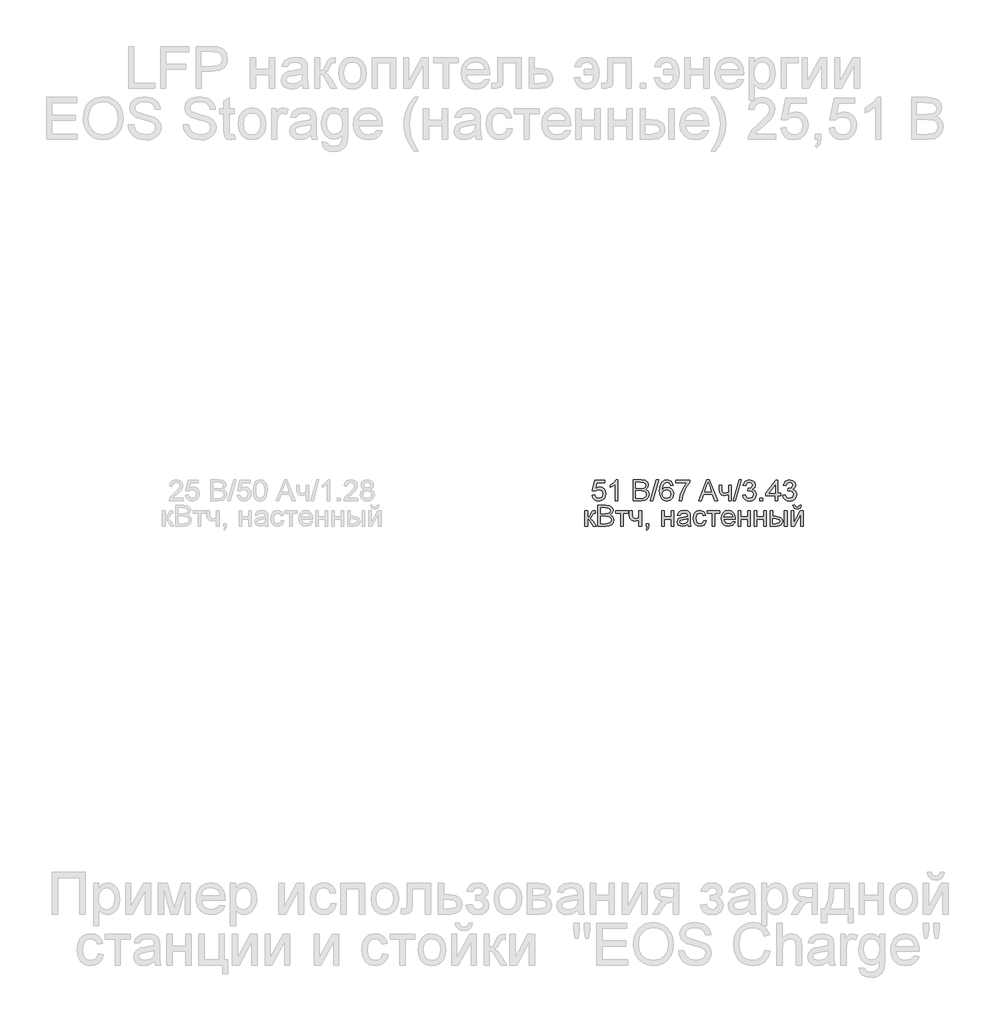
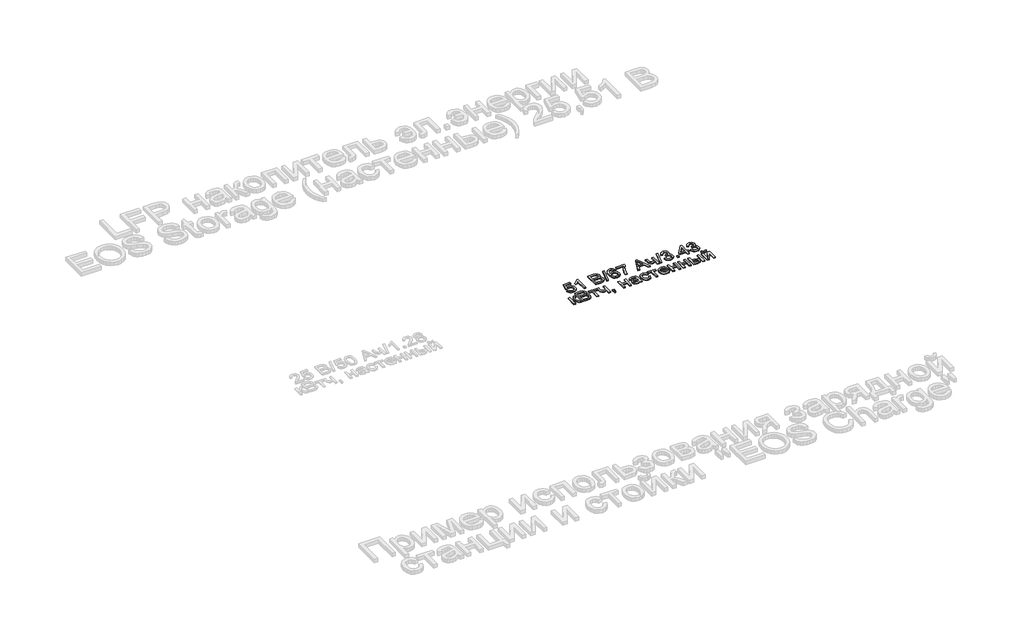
# One storey, part 16 of 26: 1 proxy.
"""IFC4 building model written with IfcOpenShell, lengths in millimetres."""

from ifc_helpers import new_model, si_unit, origin, origin_with_axes, place, context, project, spatial, polyline, outline, extrude, element, save

model = new_model("IFC4")

# Units and contexts
model_context = context("Model", 3, world=origin())
ifc_project = project(units=[si_unit("LENGTHUNIT", "METRE", prefix="MILLI")], contexts=[model_context])

# Site, building, storey
site = spatial("IfcSite", under=ifc_project)
building = spatial("IfcBuilding", under=site)
storey = spatial("IfcBuildingStorey", under=building, Name="Этаж 01", Elevation=0.0)

# Proxy
placement = place(None, origin())
element("IfcBuildingElementProxy", 1, Name="75 мм Arial", ObjectType="75 мм Arial", at=placement, inside=storey, context=model_context, shape_type="SweptSolid", body=[
    extrude(outline(polyline([(15914.924025, -18334.6892694), (15924.341804, -18333.512047), (15929.0874818, -18343.2149346), (15938.9283252, -18346.4614932), (15950.7373372, -18341.9457417), (15954.949586, -18329.9619857), (15951.0040516, -18318.7783731), (15939.075478, -18314.6764888), (15930.8073301, -18316.3135637), (15925.5190264, -18320.5626007), (15916.1012474, -18319.3853784), (15924.341804, -18280.5370397), (15960.835698, -18280.5370397), (15960.835698, -18289.9548187), (15931.9569613, -18289.9548187), (15927.9286535, -18310.7033633), (15941.7058342, -18305.2587097), (15950.5051117, -18306.9463684), (15957.8098686, -18312.0093444), (15962.727991, -18319.7256692), (15964.3673651, -18329.3733745), (15962.8912386, -18338.7911536), (15958.4628591, -18346.8477693), (15949.9831791, -18353.6213965), (15938.891537, -18355.8792723), (15929.641604, -18354.4284377), (15922.2724678, -18350.0759338), (15917.2209882, -18343.3275985), (15914.924025, -18334.6892694)])), origin_with_axes(), (0.0, 0.0, 1.0), 5.0),
    extrude(outline(polyline([(16007.9245934, -18354.7020499), (15998.5068143, -18354.7020499), (15998.5068143, -18295.9880835), (15989.5856759, -18302.3432449), (15979.6712561, -18307.0981197), (15979.6712561, -18298.1953754), (15993.476028, -18289.3846017), (16001.8545404, -18279.3598173), (16007.9245934, -18279.3598173), (16007.9245934, -18354.7020499)])), origin_with_axes(), (0.0, 0.0, 1.0), 5.0),
    extrude(outline(polyline([(16063.2540454, -18354.7020499), (16063.2540454, -18279.3598173), (16092.0040233, -18279.3598173), (16106.0847067, -18281.5763063), (16114.3988398, -18288.3913203), (16117.4062751, -18298.0298285), (16114.8770864, -18306.8314053), (16107.2343379, -18313.4992664), (16116.5141613, -18320.5258125), (16119.7607199, -18332.2428541), (16117.5442309, -18342.368806), (16112.0535921, -18349.5792931), (16103.8590206, -18353.4052659), (16091.7832942, -18354.7020499), (16063.2540454, -18354.7020499)]), holes=[polyline([(16072.6718245, -18309.9675993), (16089.8703078, -18309.9675993), (16099.9134862, -18309.1582589), (16105.955948, -18305.672577), (16107.988496, -18299.5381447), (16106.0939038, -18293.3945154), (16100.6676443, -18289.7616807), (16088.5643267, -18288.7775964), (16072.6718245, -18288.7775964), (16072.6718245, -18309.9675993)]), polyline([(16072.6718245, -18345.2842708), (16091.9856292, -18345.2842708), (16098.9753872, -18344.9163888), (16104.8890902, -18342.8654467), (16108.8070335, -18338.680789), (16110.3429408, -18332.3348246), (16108.540319, -18325.0139729), (16102.7001924, -18320.6453742), (16091.0659243, -18319.3853784), (16072.6718245, -18319.3853784), (16072.6718245, -18345.2842708)])]), origin_with_axes(), (0.0, 0.0, 1.0), 5.0),
    extrude(outline(polyline([(16124.4696094, -18354.7020499), (16145.6596123, -18279.3598173), (16154.1576864, -18279.3598173), (16132.9676835, -18354.7020499), (16124.4696094, -18354.7020499)])), origin_with_axes(), (0.0, 0.0, 1.0), 5.0),
    extrude(outline(polyline([(16206.8751763, -18299.3725978), (16197.4573973, -18300.5498202), (16193.8889419, -18292.6955396), (16184.4527687, -18288.7775964), (16175.9546946, -18291.0584647), (16169.5259568, -18299.6209182), (16166.8496153, -18316.4055342), (16175.1545513, -18308.8915444), (16185.4460501, -18306.4359321), (16194.1464593, -18308.1143937), (16201.4489169, -18313.1497785), (16206.4015283, -18320.8431108), (16208.0523987, -18330.4954146), (16204.9437959, -18343.4908461), (16196.3905395, -18352.687896), (16184.0480985, -18355.8792723), (16173.3634258, -18353.7639508), (16164.8538554, -18347.4179864), (16159.287341, -18336.2159796), (16157.4318362, -18319.5325312), (16159.4919754, -18300.7751479), (16165.6723929, -18287.9498619), (16174.1106861, -18281.5073284), (16185.0413799, -18279.3598173), (16199.9222066, -18284.6757121), (16206.8751763, -18299.3725978)]), holes=[polyline([(16166.8496153, -18330.3482618), (16169.0293161, -18338.5060451), (16174.8234575, -18344.4289452), (16183.3123346, -18346.4614932), (16194.4131738, -18342.2492444), (16198.6346196, -18330.8081143), (16194.4683561, -18319.8544279), (16182.9260585, -18315.8537112), (16171.5309137, -18319.8544279), (16166.8496153, -18330.3482618)])]), origin_with_axes(), (0.0, 0.0, 1.0), 5.0),
    extrude(outline(polyline([(16216.2929554, -18289.9548187), (16216.2929554, -18280.5370397), (16265.7362956, -18280.5370397), (16265.7362956, -18288.152197), (16251.7107945, -18308.4132979), (16240.9778373, -18334.2294169), (16237.4829583, -18354.7020499), (16228.0651793, -18354.7020499), (16231.8083786, -18333.4568647), (16242.0814833, -18309.4433674), (16256.3185165, -18289.9548187), (16216.2929554, -18289.9548187)])), origin_with_axes(), (0.0, 0.0, 1.0), 5.0),
    extrude(outline(polyline([(16298.1650934, -18354.7020499), (16328.2394466, -18279.3598173), (16336.259274, -18279.3598173), (16366.3336272, -18354.7020499), (16356.3824192, -18354.7020499), (16347.7555864, -18331.1576022), (16316.7247401, -18331.1576022), (16308.1163014, -18354.7020499), (16298.1650934, -18354.7020499)]), holes=[polyline([(16320.1828309, -18321.7398231), (16344.3158897, -18321.7398231), (16337.5284669, -18303.2169647), (16332.2493603, -18288.7775964), (16327.5588649, -18301.5982839), (16320.1828309, -18321.7398231)])]), origin_with_axes(), (0.0, 0.0, 1.0), 5.0),
    extrude(outline(polyline([(16371.6863102, -18299.3725978), (16381.1040893, -18299.3725978), (16381.1040893, -18309.9859934), (16381.8674444, -18319.9372014), (16385.5370673, -18325.3266726), (16392.8211308, -18327.6259351), (16405.8257593, -18324.7748496), (16405.8257593, -18299.3725978), (16415.2435384, -18299.3725978), (16415.2435384, -18354.7020499), (16405.8257593, -18354.7020499), (16405.8257593, -18333.8063526), (16390.3011391, -18337.0437141), (16379.6233642, -18333.6683968), (16373.3417792, -18325.400249), (16371.6863102, -18314.6397006), (16371.6863102, -18299.3725978)])), origin_with_axes(), (0.0, 0.0, 1.0), 5.0),
    extrude(outline(polyline([(16422.3068727, -18354.7020499), (16443.4968756, -18279.3598173), (16451.9949497, -18279.3598173), (16430.8049468, -18354.7020499), (16422.3068727, -18354.7020499)])), origin_with_axes(), (0.0, 0.0, 1.0), 5.0),
    extrude(outline(polyline([(16456.4463219, -18334.6892694), (16465.8641009, -18333.512047), (16471.0604341, -18343.4264667), (16480.7817159, -18346.4614932), (16492.2228459, -18342.2860326), (16496.4718829, -18331.9485485), (16492.2596341, -18322.2088727), (16481.554268, -18318.3553088), (16474.9507862, -18319.3853784), (16475.9992499, -18309.9675993), (16488.1945381, -18307.3740312), (16492.9402158, -18299.0598981), (16489.5005191, -18291.6930612), (16480.6345631, -18288.7775964), (16471.6582424, -18291.7206523), (16467.0413233, -18300.5498202), (16457.6235443, -18299.3725978), (16465.3306721, -18284.6021357), (16480.3034693, -18279.3598173), (16491.6618259, -18281.9441883), (16499.608077, -18289.0075226), (16502.3579949, -18298.5080751), (16499.7460327, -18307.1900902), (16492.0205108, -18313.42569), (16502.2844185, -18319.863625), (16505.889662, -18332.1140954), (16504.0870402, -18341.2927512), (16498.6791749, -18348.9630908), (16490.5167931, -18354.1502269), (16480.4506221, -18355.8792723), (16471.3455427, -18354.4031458), (16463.9327205, -18349.9747663), (16458.777774, -18343.201139), (16456.4463219, -18334.6892694)])), origin_with_axes(), (0.0, 0.0, 1.0), 5.0),
    extrude(outline(polyline([(16518.8391083, -18354.7020499), (16518.8391083, -18345.2842708), (16528.2568873, -18345.2842708), (16528.2568873, -18354.7020499), (16518.8391083, -18354.7020499)])), origin_with_axes(), (0.0, 0.0, 1.0), 5.0),
    extrude(outline(polyline([(16574.1685603, -18354.7020499), (16574.1685603, -18337.0437141), (16540.0291112, -18337.0437141), (16540.0291112, -18327.6259351), (16576.5230051, -18280.5370397), (16583.5863394, -18280.5370397), (16583.5863394, -18327.6259351), (16593.0041185, -18327.6259351), (16593.0041185, -18337.0437141), (16583.5863394, -18337.0437141), (16583.5863394, -18354.7020499), (16574.1685603, -18354.7020499)]), holes=[polyline([(16574.1685603, -18327.6259351), (16574.1685603, -18298.5264692), (16551.617394, -18327.6259351), (16574.1685603, -18327.6259351)])]), origin_with_axes(), (0.0, 0.0, 1.0), 5.0),
    extrude(outline(polyline([(16601.2446752, -18334.6892694), (16610.6624542, -18333.512047), (16615.8587874, -18343.4264667), (16625.5800692, -18346.4614932), (16637.0211992, -18342.2860326), (16641.2702362, -18331.9485485), (16637.0579874, -18322.2088727), (16626.3526213, -18318.3553088), (16619.7491395, -18319.3853784), (16620.7976032, -18309.9675993), (16632.9928914, -18307.3740312), (16637.7385691, -18299.0598981), (16634.2988724, -18291.6930612), (16625.4329164, -18288.7775964), (16616.4565957, -18291.7206523), (16611.8396766, -18300.5498202), (16602.4218976, -18299.3725978), (16610.1290254, -18284.6021357), (16625.1018226, -18279.3598173), (16636.4601792, -18281.9441883), (16644.4064303, -18289.0075226), (16647.1563482, -18298.5080751), (16644.544386, -18307.1900902), (16636.8188641, -18313.42569), (16647.0827718, -18319.863625), (16650.6880153, -18332.1140954), (16648.8853935, -18341.2927512), (16643.4775282, -18348.9630908), (16635.3151464, -18354.1502269), (16625.2489754, -18355.8792723), (16616.143896, -18354.4031458), (16608.7310738, -18349.9747663), (16603.5761273, -18343.201139), (16601.2446752, -18334.6892694)])), origin_with_axes(), (0.0, 0.0, 1.0), 5.0),
    extrude(outline(polyline([(15889.0251325, -18390.8537112), (15898.4429116, -18390.8537112), (15898.4429116, -18414.3981589), (15904.7520878, -18412.7059017), (15909.9208298, -18402.8466642), (15914.2158521, -18394.3393931), (15918.0050367, -18391.5710811), (15924.893627, -18390.8537112), (15926.6962488, -18390.8537112), (15926.6962488, -18400.3266726), (15924.157863, -18400.2714903), (15919.5593381, -18401.2647717), (15916.3219766, -18407.4635833), (15912.523595, -18414.1682327), (15907.1985031, -18417.4515795), (15918.9707269, -18428.8375272), (15929.0506936, -18446.1831633), (15918.3453275, -18446.1831633), (15908.467696, -18429.2054092), (15903.501289, -18422.0225132), (15898.4429116, -18420.2842708), (15898.4429116, -18446.1831633), (15889.0251325, -18446.1831633), (15889.0251325, -18390.8537112)])), origin_with_axes(), (0.0, 0.0, 1.0), 5.0),
    extrude(outline(polyline([(15936.1140279, -18446.1831633), (15936.1140279, -18370.8409307), (15964.8640058, -18370.8409307), (15978.9446892, -18373.0574197), (15987.2588223, -18379.8724337), (15990.2662576, -18389.5109419), (15987.7370689, -18398.3125187), (15980.0943204, -18404.9803798), (15989.3741437, -18412.0069259), (15992.6207024, -18423.7239675), (15990.4042133, -18433.8499194), (15984.9135746, -18441.0604065), (15976.7190031, -18444.8863792), (15964.6432766, -18446.1831633), (15936.1140279, -18446.1831633)]), holes=[polyline([(15945.531807, -18401.4487127), (15962.7302902, -18401.4487127), (15972.7734687, -18400.6393723), (15978.8159305, -18397.1536904), (15980.8484785, -18391.0192581), (15978.9538862, -18384.8756288), (15973.5276268, -18381.2427941), (15961.4243092, -18380.2587097), (15945.531807, -18380.2587097), (15945.531807, -18401.4487127)]), polyline([(15945.531807, -18436.7653842), (15964.8456117, -18436.7653842), (15971.8353696, -18436.3975022), (15977.7490727, -18434.3465601), (15981.6670159, -18430.1619024), (15983.2029233, -18423.815938), (15981.4003015, -18416.4950863), (15975.5601748, -18412.1264876), (15963.9259067, -18410.8664917), (15945.531807, -18410.8664917), (15945.531807, -18436.7653842)])]), origin_with_axes(), (0.0, 0.0, 1.0), 5.0),
    extrude(outline(polyline([(15999.6840367, -18390.8537112), (16044.4184873, -18390.8537112), (16044.4184873, -18400.2714903), (16026.7601515, -18400.2714903), (16026.7601515, -18446.1831633), (16017.3423724, -18446.1831633), (16017.3423724, -18400.2714903), (15999.6840367, -18400.2714903), (15999.6840367, -18390.8537112)])), origin_with_axes(), (0.0, 0.0, 1.0), 5.0),
    extrude(outline(polyline([(16049.1273768, -18390.8537112), (16058.5451559, -18390.8537112), (16058.5451559, -18401.4671068), (16059.308511, -18411.4183147), (16062.9781339, -18416.807786), (16070.2621974, -18419.1070484), (16083.266826, -18416.255963), (16083.266826, -18390.8537112), (16092.684605, -18390.8537112), (16092.684605, -18446.1831633), (16083.266826, -18446.1831633), (16083.266826, -18425.287466), (16067.7422058, -18428.5248275), (16057.0644309, -18425.1495102), (16050.7828458, -18416.8813624), (16049.1273768, -18406.120814), (16049.1273768, -18390.8537112)])), origin_with_axes(), (0.0, 0.0, 1.0), 5.0),
    extrude(outline(polyline([(16109.1657184, -18446.1831633), (16109.1657184, -18436.7653842), (16118.5834975, -18436.7653842), (16118.5834975, -18446.1831633), (16116.8912403, -18455.8124745), (16111.5201632, -18461.4870543), (16109.1657184, -18457.9553871), (16112.6238092, -18453.8902911), (16113.8562139, -18446.1831633), (16109.1657184, -18446.1831633)])), origin_with_axes(), (0.0, 0.0, 1.0), 5.0),
    extrude(outline(polyline([(16165.6723929, -18390.8537112), (16175.090172, -18390.8537112), (16175.090172, -18412.0437141), (16199.811842, -18412.0437141), (16199.811842, -18390.8537112), (16209.2296211, -18390.8537112), (16209.2296211, -18446.1831633), (16199.811842, -18446.1831633), (16199.811842, -18421.4614932), (16175.090172, -18421.4614932), (16175.090172, -18446.1831633), (16165.6723929, -18446.1831633), (16165.6723929, -18390.8537112)])), origin_with_axes(), (0.0, 0.0, 1.0), 5.0),
    extrude(outline(polyline([(16258.6729613, -18439.119829), (16249.5402907, -18445.5025816), (16239.451127, -18447.3603857), (16225.7751138, -18442.8906194), (16221.001845, -18431.4678835), (16222.8044667, -18424.0182731), (16227.5409474, -18418.6104077), (16234.1352322, -18415.520199), (16242.2838184, -18414.1038533), (16258.617779, -18410.8664917), (16258.6729613, -18408.7695644), (16256.0793932, -18401.8165947), (16245.6683327, -18399.0942679), (16236.1401891, -18400.9060867), (16231.5968464, -18407.3348246), (16222.1790673, -18406.1576022), (16226.2533604, -18396.9605523), (16234.4571289, -18391.5710811), (16246.8823433, -18389.6764888), (16258.2958822, -18391.3503519), (16264.7430142, -18395.5534037), (16267.6308878, -18401.9453534), (16268.0907403, -18410.1859101), (16268.0907403, -18421.9029516), (16268.5689869, -18438.2645033), (16270.4451851, -18446.1831633), (16261.027406, -18446.1831633), (16258.6729613, -18439.119829)]), holes=[polyline([(16258.6729613, -18420.2842708), (16243.4794349, -18423.1721445), (16235.3768339, -18424.6988548), (16231.707211, -18427.1820582), (16230.419624, -18430.8056959), (16233.2247242, -18435.9008615), (16241.4560839, -18437.9426066), (16250.9842276, -18435.6893294), (16257.1278569, -18430.2354788), (16258.617779, -18422.9514153), (16258.6729613, -18420.2842708)])]), origin_with_axes(), (0.0, 0.0, 1.0), 5.0),
    extrude(outline(polyline([(16316.3568581, -18426.1703827), (16325.7746372, -18427.3476051), (16318.2146622, -18442.0536879), (16303.2786532, -18447.3603857), (16293.2607666, -18445.5094794), (16285.4271794, -18439.9567605), (16280.3711012, -18430.9459509), (16278.6857418, -18418.7207723), (16281.5644184, -18403.0765905), (16290.338404, -18393.024215), (16303.1498945, -18389.6764888), (16317.4697011, -18394.2750138), (16324.5974148, -18407.3348246), (16315.1796357, -18408.512047), (16310.811037, -18401.4579097), (16303.2234709, -18399.0942679), (16292.3065727, -18403.7479751), (16288.1035209, -18418.4632549), (16292.2146022, -18433.3164905), (16302.9659535, -18437.9426066), (16311.8411066, -18435.0547329), (16316.3568581, -18426.1703827)])), origin_with_axes(), (0.0, 0.0, 1.0), 5.0),
    extrude(outline(polyline([(16329.3063043, -18390.8537112), (16374.040755, -18390.8537112), (16374.040755, -18400.2714903), (16356.3824192, -18400.2714903), (16356.3824192, -18446.1831633), (16346.9646401, -18446.1831633), (16346.9646401, -18400.2714903), (16329.3063043, -18400.2714903), (16329.3063043, -18390.8537112)])), origin_with_axes(), (0.0, 0.0, 1.0), 5.0),
    extrude(outline(polyline([(16421.0192857, -18429.7020499), (16430.2531238, -18430.8792723), (16421.617094, -18443.0377722), (16405.5314537, -18447.3603857), (16394.4811983, -18445.4956838), (16385.9785257, -18439.9015782), (16380.5568648, -18430.9413524), (16378.7496445, -18418.9782897), (16380.5752589, -18406.6128562), (16386.0521021, -18397.3652225), (16394.4398116, -18391.5986722), (16404.9980248, -18389.6764888), (16415.2274436, -18391.5940737), (16423.4013217, -18397.3468284), (16428.7609025, -18406.576068), (16430.5474294, -18418.9231074), (16430.4922471, -18421.4614932), (16388.1674236, -18421.4614932), (16393.5844859, -18433.6935695), (16405.7153947, -18437.9426066), (16414.9492328, -18435.9744379), (16421.0192857, -18429.7020499)]), holes=[polyline([(16388.1674236, -18412.0437141), (16421.1296503, -18412.0437141), (16417.3588599, -18403.5088518), (16404.9612366, -18399.0942679), (16393.3637567, -18402.616738), (16388.1674236, -18412.0437141)])]), origin_with_axes(), (0.0, 0.0, 1.0), 5.0),
    extrude(outline(polyline([(16439.9652085, -18390.8537112), (16449.3829876, -18390.8537112), (16449.3829876, -18412.0437141), (16474.1046576, -18412.0437141), (16474.1046576, -18390.8537112), (16483.5224367, -18390.8537112), (16483.5224367, -18446.1831633), (16474.1046576, -18446.1831633), (16474.1046576, -18421.4614932), (16449.3829876, -18421.4614932), (16449.3829876, -18446.1831633), (16439.9652085, -18446.1831633), (16439.9652085, -18390.8537112)])), origin_with_axes(), (0.0, 0.0, 1.0), 5.0),
    extrude(outline(polyline([(16497.6491053, -18390.8537112), (16507.0668844, -18390.8537112), (16507.0668844, -18412.0437141), (16531.7885545, -18412.0437141), (16531.7885545, -18390.8537112), (16541.2063336, -18390.8537112), (16541.2063336, -18446.1831633), (16531.7885545, -18446.1831633), (16531.7885545, -18421.4614932), (16507.0668844, -18421.4614932), (16507.0668844, -18446.1831633), (16497.6491053, -18446.1831633), (16497.6491053, -18390.8537112)])), origin_with_axes(), (0.0, 0.0, 1.0), 5.0),
    extrude(outline(polyline([(16607.1307871, -18390.8537112), (16616.5485662, -18390.8537112), (16616.5485662, -18446.1831633), (16607.1307871, -18446.1831633), (16607.1307871, -18390.8537112)])), origin_with_axes(), (0.0, 0.0, 1.0), 5.0),
    extrude(outline(polyline([(16555.3330022, -18390.8537112), (16564.7507812, -18390.8537112), (16564.7507812, -18410.8664917), (16576.3942464, -18410.8664917), (16593.9146264, -18415.5845783), (16598.5292462, -18421.197078), (16600.0674528, -18428.5984039), (16594.9079078, -18441.0236183), (16588.2055577, -18444.893277), (16578.4175974, -18446.1831633), (16555.3330022, -18446.1831633), (16555.3330022, -18390.8537112)]), holes=[polyline([(16564.7507812, -18436.7653842), (16574.4260777, -18436.7653842), (16586.9156715, -18434.7880185), (16590.6496737, -18428.616798), (16587.8813617, -18422.8226566), (16575.6584824, -18420.2842708), (16564.7507812, -18420.2842708), (16564.7507812, -18436.7653842)])]), origin_with_axes(), (0.0, 0.0, 1.0), 5.0),
    extrude(outline(polyline([(16630.6752348, -18390.8537112), (16640.0930139, -18390.8537112), (16640.0930139, -18433.0497761), (16663.2327914, -18390.8537112), (16675.4096854, -18390.8537112), (16675.4096854, -18446.1831633), (16665.9919063, -18446.1831633), (16665.9919063, -18404.2446158), (16642.9992816, -18446.1831633), (16630.6752348, -18446.1831633), (16630.6752348, -18390.8537112)])), origin_with_axes(), (0.0, 0.0, 1.0), 5.0),
    extrude(outline(polyline([(16661.2830168, -18370.8409307), (16668.3463511, -18370.8409307), (16663.7754173, -18381.3163705), (16653.6310713, -18384.9675993), (16642.6497937, -18381.3439616), (16637.7385691, -18370.8409307), (16644.8019034, -18370.8409307), (16647.4506538, -18376.1476284), (16652.7849427, -18377.904265), (16658.6342664, -18376.2028107), (16661.2830168, -18370.8409307)])), origin_with_axes(), (0.0, 0.0, 1.0), 5.0),
])

save(model, "model.ifc")
